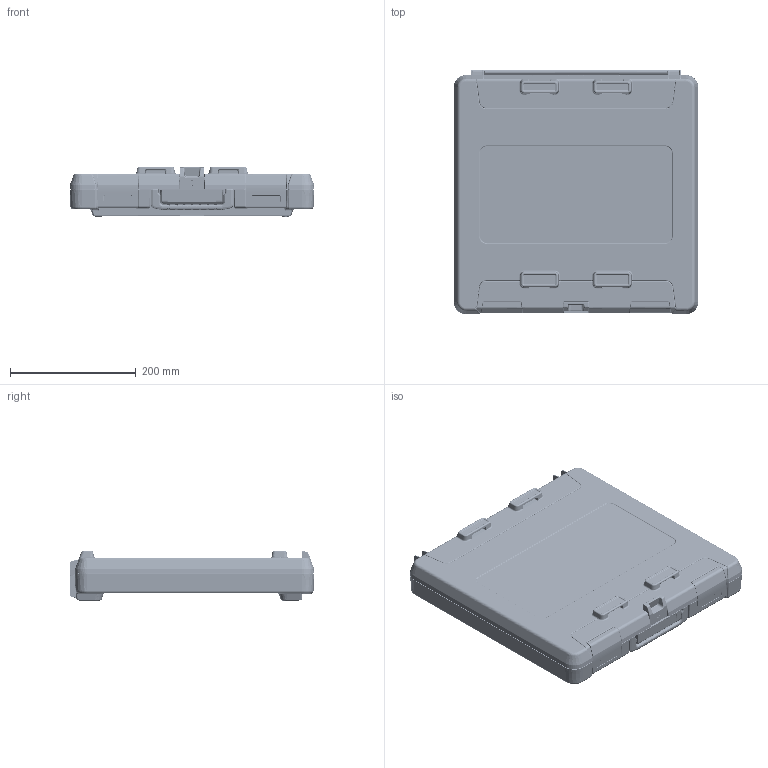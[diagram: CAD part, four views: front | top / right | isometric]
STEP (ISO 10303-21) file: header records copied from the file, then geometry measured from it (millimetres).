
FILE_DESCRIPTION(/* description */ (''),/* implementation_level */ '2;1');
FILE_NAME(/* name */ 'Flexicase_4407_01.stp',/* time_stamp */ '2019-09-06T07:44:32+02:00',/* author */ (''),/* organization */ (''),/* preprocessor_version */ 'ST-DEVELOPER v16.7',/* originating_system */ 'SIEMENS PLM Software NX 12.0',/* authorisation */ '');
FILE_SCHEMA (('AUTOMOTIVE_DESIGN { 1 0 10303 214 3 1 1 1 }'));
Products named in the file (1): HAJE3A20F123e8um
Bounding box: 390 x 390 x 78.61 mm (x, y, z)
Volume: 1338036.4 mm3; surface area: 885741.1 mm2
Topology: 6 solids, 9 shells, 14229 faces, 33435 edges, 18304 vertices
Faces by surface type: cylinder 6261, bspline 4451, plane 2609, sphere 542, torus 238, cone 128
Full cylindrical faces by diameter (mm): 8 x1
Entity records: 464022 total; most frequent: CARTESIAN_POINT 171086, ORIENTED_EDGE 64658, DIRECTION 57219, EDGE_CURVE 32329, AXIS2_PLACEMENT_3D 21959, VERTEX_POINT 18294, EDGE_LOOP 14403, ADVANCED_FACE 14221
